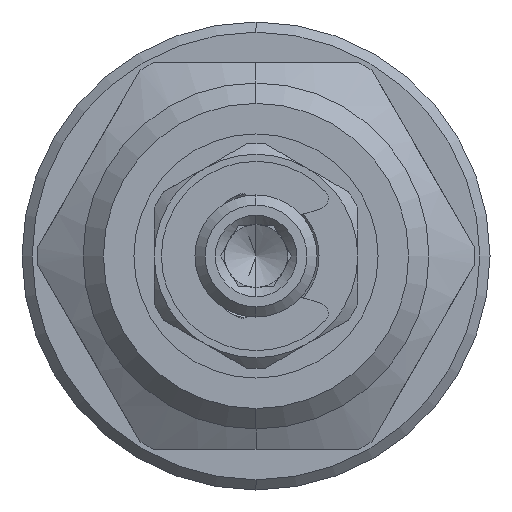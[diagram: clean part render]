
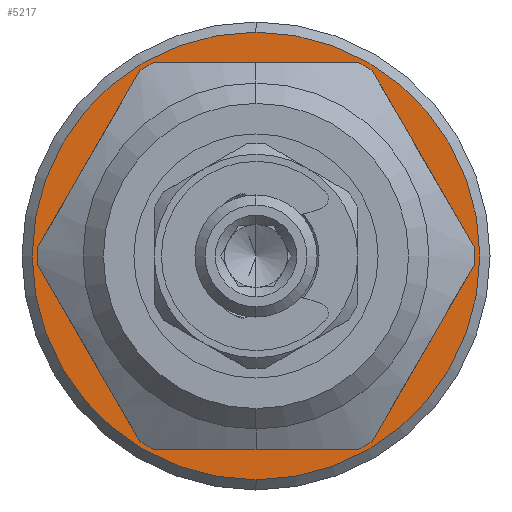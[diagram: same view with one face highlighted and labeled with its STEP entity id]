
A CAD part, left-side view. The second image highlights one B-rep face of the part: STEP entity #5217.
In plain terms, the highlighted planar face has unit normal (-1, 0, 0).
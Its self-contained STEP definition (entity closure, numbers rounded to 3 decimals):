
#23 = VERTEX_POINT ( 'NONE', #1267 ) ;
#70 = VECTOR ( 'NONE', #1031, 1000. ) ;
#83 = VERTEX_POINT ( 'NONE', #2623 ) ;
#210 = EDGE_CURVE ( 'NONE', #2766, #5467, #4212, .T. ) ;
#255 = CARTESIAN_POINT ( 'NONE',  ( 19., 5.485, -9.5 ) ) ;
#296 = EDGE_CURVE ( 'NONE', #2766, #7262, #3193, .T. ) ;
#362 = VECTOR ( 'NONE', #6740, 1000. ) ;
#532 = LINE ( 'NONE', #6575, #5069 ) ;
#550 = EDGE_CURVE ( 'NONE', #2548, #83, #4372, .T. ) ;
#557 = CIRCLE ( 'NONE', #6471, 10.75 ) ;
#779 = VERTEX_POINT ( 'NONE', #4583 ) ;
#1003 = VERTEX_POINT ( 'NONE', #4329 ) ;
#1031 = DIRECTION ( 'NONE',  ( 0., 0.5, 0.866 ) ) ;
#1044 = CARTESIAN_POINT ( 'NONE',  ( 19., -5.031, -9.5 ) ) ;
#1131 = DIRECTION ( 'NONE',  ( -1., 0., 0. ) ) ;
#1179 = AXIS2_PLACEMENT_3D ( 'NONE', #9586, #2271, #3464 ) ;
#1250 = EDGE_CURVE ( 'NONE', #2260, #7262, #6193, .T. ) ;
#1267 = CARTESIAN_POINT ( 'NONE',  ( 19., -5.031, 9.5 ) ) ;
#1303 = CIRCLE ( 'NONE', #3184, 10.75 ) ;
#1422 = AXIS2_PLACEMENT_3D ( 'NONE', #3400, #3374, #3350 ) ;
#1424 = CARTESIAN_POINT ( 'NONE',  ( 19., 5.485, 9.5 ) ) ;
#1503 = CARTESIAN_POINT ( 'NONE',  ( 19., -10.743, -0.393 ) ) ;
#1846 = VERTEX_POINT ( 'NONE', #8078 ) ;
#1907 = ORIENTED_EDGE ( 'NONE', *, *, #3997, .F. ) ;
#2249 = CARTESIAN_POINT ( 'NONE',  ( 19., 0., 0. ) ) ;
#2260 = VERTEX_POINT ( 'NONE', #1044 ) ;
#2271 = DIRECTION ( 'NONE',  ( -1., 0., 0. ) ) ;
#2548 = VERTEX_POINT ( 'NONE', #9472 ) ;
#2572 = EDGE_CURVE ( 'NONE', #3249, #23, #10359, .T. ) ;
#2623 = CARTESIAN_POINT ( 'NONE',  ( 19., 5.031, -9.5 ) ) ;
#2766 = VERTEX_POINT ( 'NONE', #1503 ) ;
#2878 = EDGE_CURVE ( 'NONE', #1846, #5467, #11371, .T. ) ;
#3084 = CIRCLE ( 'NONE', #3935, 10.75 ) ;
#3166 = CARTESIAN_POINT ( 'NONE',  ( 19., -10.743, 0.393 ) ) ;
#3170 = EDGE_CURVE ( 'NONE', #7254, #9424, #557, .T. ) ;
#3184 = AXIS2_PLACEMENT_3D ( 'NONE', #2249, #8811, #6699 ) ;
#3193 = LINE ( 'NONE', #7416, #3337 ) ;
#3210 = FACE_BOUND ( 'NONE', #3721, .T. ) ;
#3234 = CARTESIAN_POINT ( 'NONE',  ( 19., 10.97, 0. ) ) ;
#3248 = ORIENTED_EDGE ( 'NONE', *, *, #3170, .F. ) ;
#3249 = VERTEX_POINT ( 'NONE', #3761 ) ;
#3337 = VECTOR ( 'NONE', #9082, 1000. ) ;
#3350 = DIRECTION ( 'NONE',  ( 0., 0., -1. ) ) ;
#3374 = DIRECTION ( 'NONE',  ( -1., 0., 0. ) ) ;
#3400 = CARTESIAN_POINT ( 'NONE',  ( 19., 0., 0. ) ) ;
#3401 = EDGE_CURVE ( 'NONE', #8515, #779, #9365, .T. ) ;
#3464 = DIRECTION ( 'NONE',  ( 0., 0., -1. ) ) ;
#3496 = FACE_OUTER_BOUND ( 'NONE', #9143, .T. ) ;
#3711 = CARTESIAN_POINT ( 'NONE',  ( 19., -5.485, 9.5 ) ) ;
#3721 = EDGE_LOOP ( 'NONE', ( #8528, #6024, #10774, #4119, #10960, #3248, #9166, #5854, #5546, #1907, #10205, #11328 ) ) ;
#3761 = CARTESIAN_POINT ( 'NONE',  ( 19., 5.031, 9.5 ) ) ;
#3935 = AXIS2_PLACEMENT_3D ( 'NONE', #10143, #10390, #10324 ) ;
#3997 = EDGE_CURVE ( 'NONE', #1846, #23, #1303, .T. ) ;
#4068 = EDGE_CURVE ( 'NONE', #2548, #9424, #6795, .T. ) ;
#4079 = DIRECTION ( 'NONE',  ( 1., 0., 0. ) ) ;
#4119 = ORIENTED_EDGE ( 'NONE', *, *, #550, .F. ) ;
#4194 = CARTESIAN_POINT ( 'NONE',  ( 19., 0., 0. ) ) ;
#4206 = DIRECTION ( 'NONE',  ( -1., 0., 0. ) ) ;
#4212 = CIRCLE ( 'NONE', #10082, 10.75 ) ;
#4215 = DIRECTION ( 'NONE',  ( 0., 0., 1. ) ) ;
#4216 = DIRECTION ( 'NONE',  ( 0., -0.5, 0.866 ) ) ;
#4329 = CARTESIAN_POINT ( 'NONE',  ( 19., 5.712, 9.107 ) ) ;
#4372 = CIRCLE ( 'NONE', #5165, 10.75 ) ;
#4583 = CARTESIAN_POINT ( 'NONE',  ( 19., 0., -11. ) ) ;
#4775 = PLANE ( 'NONE',  #8129 ) ;
#4930 = EDGE_CURVE ( 'NONE', #7254, #1003, #5390, .T. ) ;
#5069 = VECTOR ( 'NONE', #6633, 1000. ) ;
#5165 = AXIS2_PLACEMENT_3D ( 'NONE', #6238, #11364, #5357 ) ;
#5204 = AXIS2_PLACEMENT_3D ( 'NONE', #6806, #7291, #7529 ) ;
#5217 = ADVANCED_FACE ( 'NONE', ( #3496, #3210 ), #4775, .F. ) ;
#5357 = DIRECTION ( 'NONE',  ( 0., 0., 1. ) ) ;
#5390 = LINE ( 'NONE', #3234, #5823 ) ;
#5397 = EDGE_CURVE ( 'NONE', #779, #8515, #8094, .T. ) ;
#5467 = VERTEX_POINT ( 'NONE', #3166 ) ;
#5546 = ORIENTED_EDGE ( 'NONE', *, *, #2572, .T. ) ;
#5823 = VECTOR ( 'NONE', #4216, 1000. ) ;
#5854 = ORIENTED_EDGE ( 'NONE', *, *, #10546, .F. ) ;
#6024 = ORIENTED_EDGE ( 'NONE', *, *, #1250, .F. ) ;
#6193 = CIRCLE ( 'NONE', #5204, 10.75 ) ;
#6238 = CARTESIAN_POINT ( 'NONE',  ( 19., 0., 0. ) ) ;
#6471 = AXIS2_PLACEMENT_3D ( 'NONE', #10348, #1131, #11067 ) ;
#6575 = CARTESIAN_POINT ( 'NONE',  ( 19., -5.485, -9.5 ) ) ;
#6633 = DIRECTION ( 'NONE',  ( 0., 1., 0. ) ) ;
#6650 = CARTESIAN_POINT ( 'NONE',  ( 19., 10.743, 0.393 ) ) ;
#6699 = DIRECTION ( 'NONE',  ( 0., 0., 1. ) ) ;
#6739 = CARTESIAN_POINT ( 'NONE',  ( 19., -5.712, -9.107 ) ) ;
#6740 = DIRECTION ( 'NONE',  ( 0., -1., 0. ) ) ;
#6795 = LINE ( 'NONE', #255, #70 ) ;
#6806 = CARTESIAN_POINT ( 'NONE',  ( 19., 0., 0. ) ) ;
#7213 = EDGE_CURVE ( 'NONE', #2260, #83, #532, .T. ) ;
#7254 = VERTEX_POINT ( 'NONE', #6650 ) ;
#7262 = VERTEX_POINT ( 'NONE', #6739 ) ;
#7291 = DIRECTION ( 'NONE',  ( -1., 0., 0. ) ) ;
#7416 = CARTESIAN_POINT ( 'NONE',  ( 19., -10.97, 0. ) ) ;
#7529 = DIRECTION ( 'NONE',  ( 0., 0., 1. ) ) ;
#7549 = DIRECTION ( 'NONE',  ( 0., -0.5, -0.866 ) ) ;
#8008 = CARTESIAN_POINT ( 'NONE',  ( 19., 10.743, -0.393 ) ) ;
#8055 = DIRECTION ( 'NONE',  ( 0., 0., -1. ) ) ;
#8078 = CARTESIAN_POINT ( 'NONE',  ( 19., -5.712, 9.107 ) ) ;
#8094 = CIRCLE ( 'NONE', #1422, 11. ) ;
#8129 = AXIS2_PLACEMENT_3D ( 'NONE', #8440, #4079, #8055 ) ;
#8440 = CARTESIAN_POINT ( 'NONE',  ( 19., 10.75, 0. ) ) ;
#8515 = VERTEX_POINT ( 'NONE', #9336 ) ;
#8528 = ORIENTED_EDGE ( 'NONE', *, *, #296, .T. ) ;
#8811 = DIRECTION ( 'NONE',  ( -1., 0., 0. ) ) ;
#8870 = ORIENTED_EDGE ( 'NONE', *, *, #5397, .T. ) ;
#9082 = DIRECTION ( 'NONE',  ( 0., 0.5, -0.866 ) ) ;
#9143 = EDGE_LOOP ( 'NONE', ( #8870, #9531 ) ) ;
#9166 = ORIENTED_EDGE ( 'NONE', *, *, #4930, .T. ) ;
#9336 = CARTESIAN_POINT ( 'NONE',  ( 19., 0., 11. ) ) ;
#9365 = CIRCLE ( 'NONE', #1179, 11. ) ;
#9424 = VERTEX_POINT ( 'NONE', #8008 ) ;
#9472 = CARTESIAN_POINT ( 'NONE',  ( 19., 5.712, -9.107 ) ) ;
#9531 = ORIENTED_EDGE ( 'NONE', *, *, #3401, .T. ) ;
#9586 = CARTESIAN_POINT ( 'NONE',  ( 19., 0., 0. ) ) ;
#10082 = AXIS2_PLACEMENT_3D ( 'NONE', #4194, #4206, #4215 ) ;
#10143 = CARTESIAN_POINT ( 'NONE',  ( 19., 0., 0. ) ) ;
#10205 = ORIENTED_EDGE ( 'NONE', *, *, #2878, .T. ) ;
#10324 = DIRECTION ( 'NONE',  ( 0., 0., 1. ) ) ;
#10348 = CARTESIAN_POINT ( 'NONE',  ( 19., 0., 0. ) ) ;
#10359 = LINE ( 'NONE', #1424, #362 ) ;
#10390 = DIRECTION ( 'NONE',  ( -1., 0., 0. ) ) ;
#10546 = EDGE_CURVE ( 'NONE', #3249, #1003, #3084, .T. ) ;
#10774 = ORIENTED_EDGE ( 'NONE', *, *, #7213, .T. ) ;
#10960 = ORIENTED_EDGE ( 'NONE', *, *, #4068, .T. ) ;
#11067 = DIRECTION ( 'NONE',  ( 0., 0., 1. ) ) ;
#11234 = VECTOR ( 'NONE', #7549, 1000. ) ;
#11328 = ORIENTED_EDGE ( 'NONE', *, *, #210, .F. ) ;
#11364 = DIRECTION ( 'NONE',  ( -1., 0., 0. ) ) ;
#11371 = LINE ( 'NONE', #3711, #11234 ) ;
